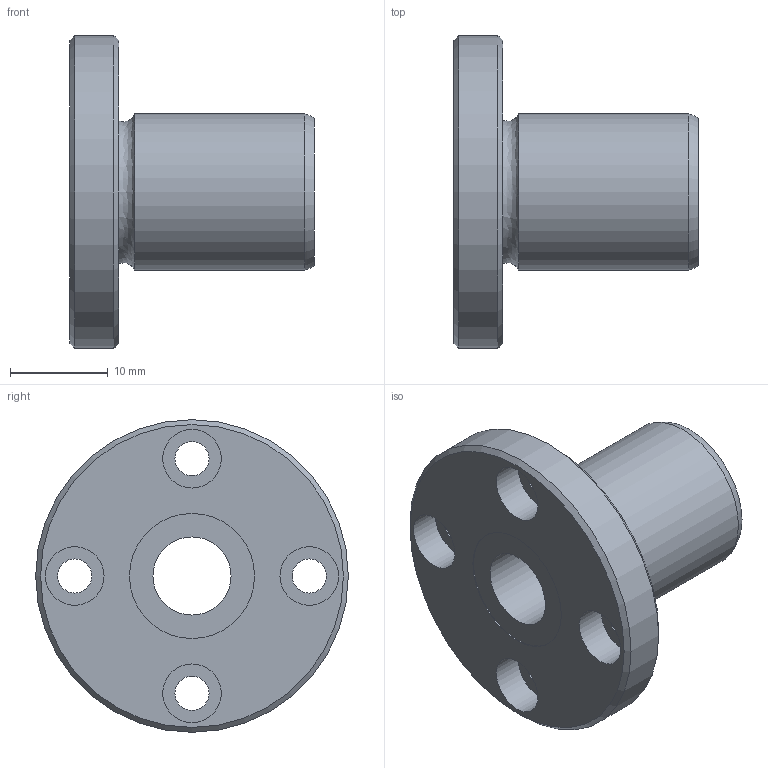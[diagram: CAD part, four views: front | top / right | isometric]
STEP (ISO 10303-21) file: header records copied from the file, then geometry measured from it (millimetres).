
FILE_DESCRIPTION((''),'2;1');
FILE_NAME('D:\製品 (図面)\カタログ用3D\リニアベアリング関連\STEP形式\LF\LF8.stp','2010-06-03T09:11:13',('Tsuchiya'),(''),'Autodesk Inventor 10','Autodesk Inventor 10','');
FILE_SCHEMA(('AUTOMOTIVE_DESIGN { 1 0 10303 214 1 1 1 1 }'));
Length unit declared in the file: millimetre
Products named in the file (1): LF8
Bounding box: 25 x 32 x 32 mm (x, y, z)
Volume: 6254.9 mm3; surface area: 3857.6 mm2
Topology: 1 solids, 1 shells, 26 faces, 47 edges, 30 vertices
Faces by surface type: cylinder 13, plane 9, cone 2, torus 1, bspline 1
Full cylindrical faces by diameter (mm): 3.5 x4, 6 x4, 8 x1, 12.8 x2, 16 x1, 32 x1
Entity records: 665 total; most frequent: CARTESIAN_POINT 149, DIRECTION 112, ORIENTED_EDGE 60, EDGE_LOOP 60, AXIS2_PLACEMENT_3D 56, FACE_BOUND 34, VERTEX_POINT 30, CIRCLE 30
